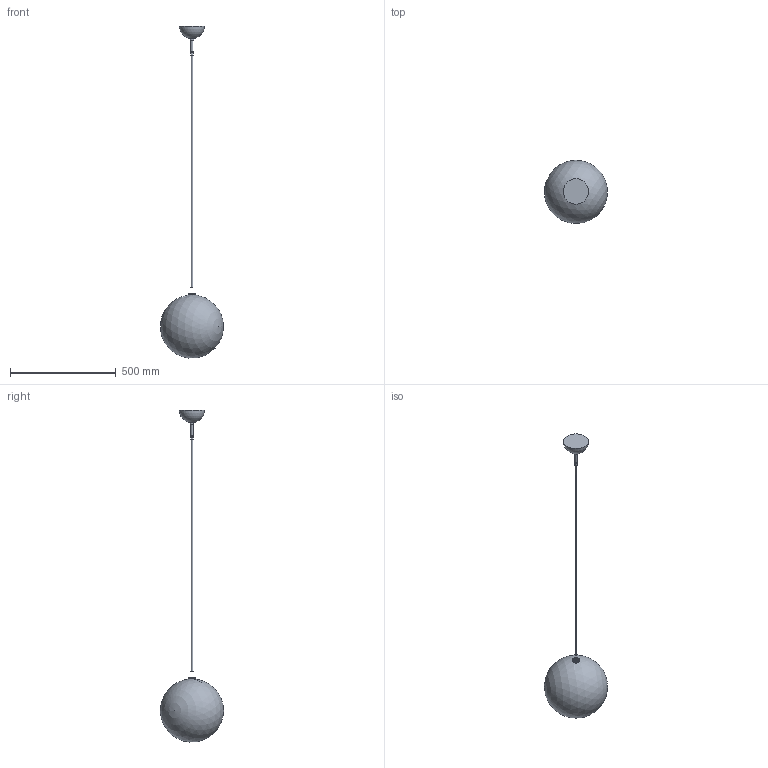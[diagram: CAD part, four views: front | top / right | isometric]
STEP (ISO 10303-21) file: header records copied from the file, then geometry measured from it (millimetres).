
FILE_DESCRIPTION(/* description */ (''),/* implementation_level */ '2;1');
FILE_NAME(/* name */ 'T:\B077 Glass Globe Pendant 300\Pliki bryłowe handlowe\B077 Glass Globe 300 3D files_na stronę\B077 Glass Globe 300.stp',/* time_stamp */ '2022-02-02T12:45:32+01:00',/* author */ ('Mariusz Awariusz'),/* organization */ (''),/* preprocessor_version */ 'ST-DEVELOPER v18.1',/* originating_system */ 'Autodesk Inventor 2022',/* authorisation */ '');
FILE_SCHEMA (('AUTOMOTIVE_DESIGN { 1 0 10303 214 3 1 1 }'));
Length unit declared in the file: millimetre
Products named in the file (1): Glass Globe Pendant 300 CE v3_na potrzeby plików 3D_2_jako część_
korpusy bryłowe
Bounding box: 298.42 x 299.62 x 1573.2 mm (x, y, z)
Volume: 1079307.6 mm3; surface area: 628652.5 mm2
Topology: 15 solids, 15 shells, 102 faces, 177 edges, 110 vertices
Faces by surface type: plane 39, cylinder 29, cone 26, torus 4, sphere 3, bspline 1
Full cylindrical faces by diameter (mm): 2.693 x3, 3 x3, 4 x2, 5.5 x3, 7 x1, 8.6 x2, 10 x3, 11 x1, 12.6 x1, 13 x3, 13.3 x1, 14 x1, 18 x1, 19.8 x1, 20 x1, 33 x1, 35 x1
Entity records: 2486 total; most frequent: DIRECTION 481, CARTESIAN_POINT 420, ORIENTED_EDGE 346, AXIS2_PLACEMENT_3D 210, EDGE_CURVE 173, EDGE_LOOP 113, VERTEX_POINT 110, CIRCLE 108
